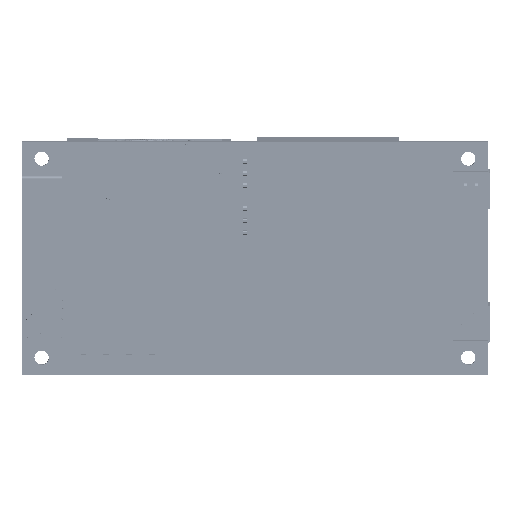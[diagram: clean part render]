
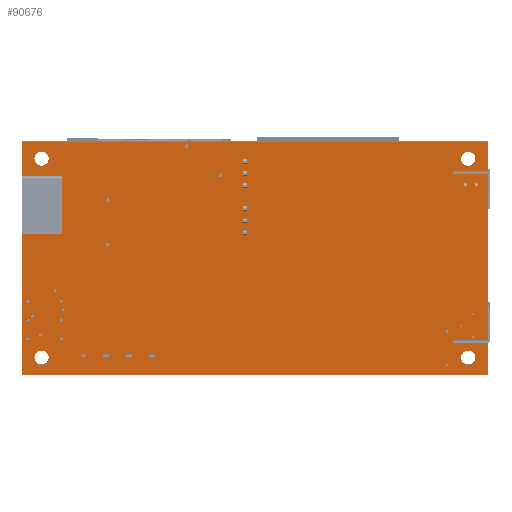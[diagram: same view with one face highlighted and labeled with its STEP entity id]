
A CAD part, top view. The second image highlights one B-rep face of the part: STEP entity #90676.
In plain terms, the highlighted planar face has unit normal (0, -0.063, 0.998) as drawn and (0, 0, -1) by its records, which use the part's own axes.
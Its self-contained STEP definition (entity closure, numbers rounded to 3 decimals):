
#6137=FACE_BOUND($,#22606,.T.);
#6138=FACE_BOUND($,#22607,.T.);
#6139=FACE_BOUND($,#22608,.T.);
#6140=FACE_BOUND($,#22609,.T.);
#6141=FACE_BOUND($,#22610,.T.);
#6346=CIRCLE($,#97494,1.6);
#6348=CIRCLE($,#97497,1.6);
#6350=CIRCLE($,#97500,1.6);
#6352=CIRCLE($,#97503,1.6);
#22606=EDGE_LOOP($,(#56150));
#22607=EDGE_LOOP($,(#56151));
#22608=EDGE_LOOP($,(#56152));
#22609=EDGE_LOOP($,(#56153));
#22610=EDGE_LOOP($,(#56154,#56155,#56156,#56157));
#29671=LINE($,#143458,#33163);
#29675=LINE($,#143466,#33167);
#29678=LINE($,#143472,#33170);
#29681=LINE($,#143477,#33173);
#33163=VECTOR($,#111864,52.1);
#33167=VECTOR($,#111870,103.9);
#33170=VECTOR($,#111875,52.1);
#33173=VECTOR($,#111880,103.9);
#36541=VERTEX_POINT($,#143165);
#36543=VERTEX_POINT($,#143170);
#36545=VERTEX_POINT($,#143175);
#36547=VERTEX_POINT($,#143180);
#36636=VERTEX_POINT($,#143456);
#36637=VERTEX_POINT($,#143457);
#36640=VERTEX_POINT($,#143465);
#36642=VERTEX_POINT($,#143471);
#42877=EDGE_CURVE($,#36541,#36541,#6346,.T.);
#42879=EDGE_CURVE($,#36543,#36543,#6348,.T.);
#42881=EDGE_CURVE($,#36545,#36545,#6350,.T.);
#42883=EDGE_CURVE($,#36547,#36547,#6352,.T.);
#43009=EDGE_CURVE($,#36636,#36637,#29671,.T.);
#43013=EDGE_CURVE($,#36640,#36636,#29675,.T.);
#43016=EDGE_CURVE($,#36642,#36640,#29678,.T.);
#43019=EDGE_CURVE($,#36637,#36642,#29681,.T.);
#56150=ORIENTED_EDGE($,*,*,#42877,.T.);
#56151=ORIENTED_EDGE($,*,*,#42879,.T.);
#56152=ORIENTED_EDGE($,*,*,#42881,.T.);
#56153=ORIENTED_EDGE($,*,*,#42883,.T.);
#56154=ORIENTED_EDGE($,*,*,#43019,.F.);
#56155=ORIENTED_EDGE($,*,*,#43009,.F.);
#56156=ORIENTED_EDGE($,*,*,#43013,.F.);
#56157=ORIENTED_EDGE($,*,*,#43016,.F.);
#84583=PLANE($,#97584);
#90676=ADVANCED_FACE($,(#6137,#6138,#6139,#6140,#6141),#84583,.F.);
#97494=AXIS2_PLACEMENT_3D($,#143166,#111582,#111583);
#97497=AXIS2_PLACEMENT_3D($,#143171,#111588,#111589);
#97500=AXIS2_PLACEMENT_3D($,#143176,#111594,#111595);
#97503=AXIS2_PLACEMENT_3D($,#143181,#111600,#111601);
#97584=AXIS2_PLACEMENT_3D($,#143480,#111884,#111885);
#111582=DIRECTION('center_axis',(0.,0.,1.));
#111583=DIRECTION('ref_axis',(1.,0.,0.));
#111588=DIRECTION('center_axis',(0.,0.,1.));
#111589=DIRECTION('ref_axis',(1.,0.,0.));
#111594=DIRECTION('center_axis',(0.,0.,1.));
#111595=DIRECTION('ref_axis',(1.,0.,0.));
#111600=DIRECTION('center_axis',(0.,0.,1.));
#111601=DIRECTION('ref_axis',(1.,0.,0.));
#111864=DIRECTION($,(0.,-1.,0.));
#111870=DIRECTION($,(-1.,0.,0.));
#111875=DIRECTION($,(0.,1.,0.));
#111880=DIRECTION($,(1.,0.,0.));
#111884=DIRECTION('center_axis',(0.,0.,1.));
#111885=DIRECTION('ref_axis',(1.,0.,0.));
#143165=CARTESIAN_POINT('',(102.354,6.096,0.));
#143166=CARTESIAN_POINT('Origin',(103.954,6.096,0.));
#143170=CARTESIAN_POINT('',(7.154,50.546,0.));
#143171=CARTESIAN_POINT('Origin',(8.754,50.546,0.));
#143175=CARTESIAN_POINT('',(7.154,6.096,0.));
#143176=CARTESIAN_POINT('Origin',(8.754,6.096,0.));
#143180=CARTESIAN_POINT('',(102.354,50.546,0.));
#143181=CARTESIAN_POINT('Origin',(103.954,50.546,0.));
#143456=CARTESIAN_POINT('',(4.404,54.371,0.));
#143457=CARTESIAN_POINT('',(4.404,2.271,0.));
#143458=CARTESIAN_POINT($,(4.404,54.371,0.));
#143465=CARTESIAN_POINT('',(108.304,54.371,0.));
#143466=CARTESIAN_POINT($,(108.304,54.371,0.));
#143471=CARTESIAN_POINT('',(108.304,2.271,0.));
#143472=CARTESIAN_POINT($,(108.304,2.271,0.));
#143477=CARTESIAN_POINT($,(4.404,2.271,0.));
#143480=CARTESIAN_POINT('Origin',(56.354,28.321,0.));
